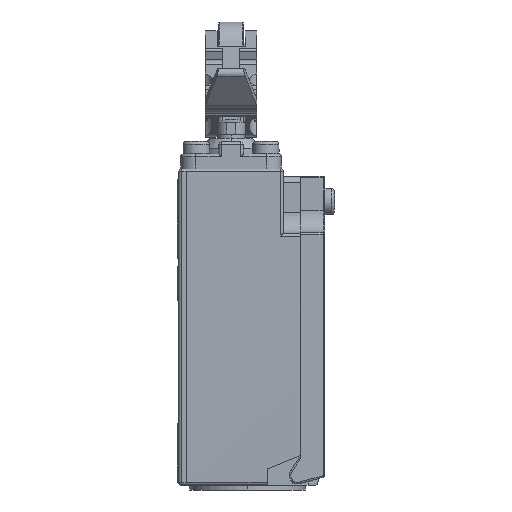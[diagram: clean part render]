
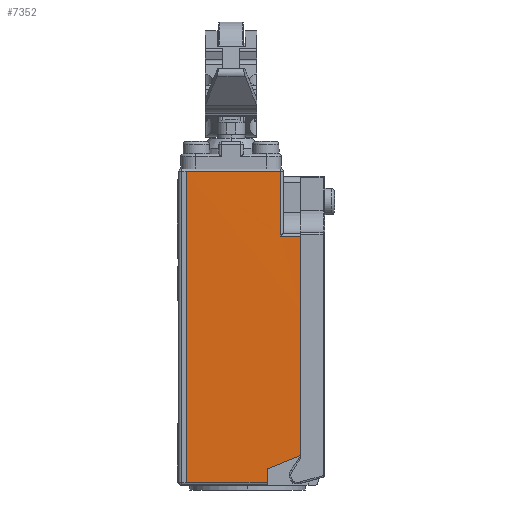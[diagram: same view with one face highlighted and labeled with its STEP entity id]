
A CAD part, front view. The second image highlights one B-rep face of the part: STEP entity #7352.
In plain terms, the highlighted free-form (B-spline) face has degree [3, 3] with [6, 4] control points.
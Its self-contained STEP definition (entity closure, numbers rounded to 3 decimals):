
#681=B_SPLINE_SURFACE_WITH_KNOTS('',3,3,((#47735,#47736,#47737,#47738),
(#47739,#47740,#47741,#47742),(#47743,#47744,#47745,#47746),(#47747,#47748,
#47749,#47750),(#47751,#47752,#47753,#47754),(#47755,#47756,#47757,#47758)),
 .UNSPECIFIED.,.F.,.F.,.F.,(4,1,1,4),(4,4),(0.,0.019,0.981,
1.),(0.,1.),.UNSPECIFIED.);
#5288=FACE_OUTER_BOUND('',#9724,.T.);
#6643=B_SPLINE_CURVE_WITH_KNOTS('',3,(#47699,#47700,#47701,#47702),
 .UNSPECIFIED.,.F.,.F.,(4,4),(0.,1.),.UNSPECIFIED.);
#6644=B_SPLINE_CURVE_WITH_KNOTS('',3,(#47704,#47705,#47706,#47707),
 .UNSPECIFIED.,.F.,.F.,(4,4),(0.,1.),.UNSPECIFIED.);
#6645=B_SPLINE_CURVE_WITH_KNOTS('',3,(#47709,#47710,#47711,#47712,#47713,
#47714,#47715,#47716,#47717,#47718),.UNSPECIFIED.,.F.,.F.,(4,2,2,2,4),(0.,
0.25,0.375,0.5,1.),.UNSPECIFIED.);
#6646=B_SPLINE_CURVE_WITH_KNOTS('',3,(#47719,#47720,#47721,#47722),
 .UNSPECIFIED.,.F.,.F.,(4,4),(0.,1.),.UNSPECIFIED.);
#6647=B_SPLINE_CURVE_WITH_KNOTS('',3,(#47726,#47727,#47728,#47729),
 .UNSPECIFIED.,.F.,.F.,(4,4),(0.,1.),.UNSPECIFIED.);
#6648=B_SPLINE_CURVE_WITH_KNOTS('',3,(#47731,#47732,#47733,#47734),
 .UNSPECIFIED.,.F.,.F.,(4,4),(0.,1.),.UNSPECIFIED.);
#7352=ADVANCED_FACE('',(#5288),#681,.F.);
#9724=EDGE_LOOP('',(#13995,#13996,#13997,#13998,#13999,#14000,#14001,#14002,
#14003));
#11206=CIRCLE('',#30819,1671.224);
#13995=ORIENTED_EDGE('',*,*,#23180,.F.);
#13996=ORIENTED_EDGE('',*,*,#23181,.T.);
#13997=ORIENTED_EDGE('',*,*,#23182,.F.);
#13998=ORIENTED_EDGE('',*,*,#23183,.T.);
#13999=ORIENTED_EDGE('',*,*,#23179,.T.);
#14000=ORIENTED_EDGE('',*,*,#23184,.T.);
#14001=ORIENTED_EDGE('',*,*,#23185,.T.);
#14002=ORIENTED_EDGE('',*,*,#23186,.F.);
#14003=ORIENTED_EDGE('',*,*,#23187,.F.);
#20316=VERTEX_POINT('',#47689);
#20318=VERTEX_POINT('',#47693);
#20319=VERTEX_POINT('',#47697);
#20320=VERTEX_POINT('',#47698);
#20321=VERTEX_POINT('',#47703);
#20322=VERTEX_POINT('',#47708);
#20323=VERTEX_POINT('',#47723);
#20324=VERTEX_POINT('',#47725);
#20325=VERTEX_POINT('',#47730);
#23179=EDGE_CURVE('',#20316,#20318,#26373,.T.);
#23180=EDGE_CURVE('',#20319,#20320,#11206,.T.);
#23181=EDGE_CURVE('',#20319,#20321,#6643,.T.);
#23182=EDGE_CURVE('',#20322,#20321,#6644,.T.);
#23183=EDGE_CURVE('',#20322,#20316,#6645,.T.);
#23184=EDGE_CURVE('',#20318,#20323,#6646,.T.);
#23185=EDGE_CURVE('',#20323,#20324,#26374,.T.);
#23186=EDGE_CURVE('',#20325,#20324,#6647,.T.);
#23187=EDGE_CURVE('',#20320,#20325,#6648,.T.);
#26373=LINE('',#47694,#28493);
#26374=LINE('',#47724,#28494);
#28493=VECTOR('',#34142,1.);
#28494=VECTOR('',#34147,1.);
#30819=AXIS2_PLACEMENT_3D('',#47696,#34145,#34146);
#34142=DIRECTION('',(-1.,0.,0.));
#34145=DIRECTION('',(1.,0.,0.));
#34146=DIRECTION('',(0.,-1.,0.011));
#34147=DIRECTION('',(1.,0.,0.));
#47689=CARTESIAN_POINT('',(-105.895,434.864,-71.736));
#47693=CARTESIAN_POINT('',(-125.089,434.864,-71.736));
#47694=CARTESIAN_POINT('',(-105.895,434.864,-71.736));
#47696=CARTESIAN_POINT('',(-101.905,2105.789,-103.305));
#47697=CARTESIAN_POINT('',(-101.905,434.666,-84.975));
#47698=CARTESIAN_POINT('',(-101.905,434.769,-129.379));
#47699=CARTESIAN_POINT('',(-101.905,434.666,-84.975));
#47700=CARTESIAN_POINT('',(-103.238,434.677,-84.929));
#47701=CARTESIAN_POINT('',(-104.572,434.688,-84.882));
#47702=CARTESIAN_POINT('',(-105.905,434.699,-84.836));
#47703=CARTESIAN_POINT('',(-105.905,434.702,-84.836));
#47704=CARTESIAN_POINT('',(-105.905,434.704,-84.324));
#47705=CARTESIAN_POINT('',(-105.905,434.704,-84.494));
#47706=CARTESIAN_POINT('',(-105.905,434.704,-84.665));
#47707=CARTESIAN_POINT('',(-105.905,434.704,-84.836));
#47708=CARTESIAN_POINT('',(-105.905,434.704,-84.324));
#47709=CARTESIAN_POINT('',(-105.905,434.704,-84.324));
#47710=CARTESIAN_POINT('',(-105.904,434.711,-83.586));
#47711=CARTESIAN_POINT('',(-105.904,434.72,-82.693));
#47712=CARTESIAN_POINT('',(-105.903,434.737,-81.12));
#47713=CARTESIAN_POINT('',(-105.902,434.743,-80.556));
#47714=CARTESIAN_POINT('',(-105.901,434.757,-79.351));
#47715=CARTESIAN_POINT('',(-105.901,434.765,-78.753));
#47716=CARTESIAN_POINT('',(-105.898,434.811,-75.135));
#47717=CARTESIAN_POINT('',(-105.896,434.843,-73.038));
#47718=CARTESIAN_POINT('',(-105.895,434.864,-71.736));
#47719=CARTESIAN_POINT('',(-125.089,434.864,-71.736));
#47720=CARTESIAN_POINT('',(-125.089,434.84,-92.782));
#47721=CARTESIAN_POINT('',(-125.089,434.84,-113.828));
#47722=CARTESIAN_POINT('',(-125.089,434.864,-134.873));
#47723=CARTESIAN_POINT('',(-125.089,434.864,-134.873));
#47724=CARTESIAN_POINT('',(-125.089,434.864,-134.873));
#47725=CARTESIAN_POINT('',(-108.652,434.864,-134.873));
#47726=CARTESIAN_POINT('',(-108.652,434.827,-132.078));
#47727=CARTESIAN_POINT('',(-108.652,434.839,-133.01));
#47728=CARTESIAN_POINT('',(-108.652,434.851,-133.942));
#47729=CARTESIAN_POINT('',(-108.652,434.864,-134.873));
#47730=CARTESIAN_POINT('',(-108.652,434.827,-132.078));
#47731=CARTESIAN_POINT('',(-101.905,434.769,-129.379));
#47732=CARTESIAN_POINT('',(-104.154,434.791,-130.279));
#47733=CARTESIAN_POINT('',(-106.403,434.811,-131.178));
#47734=CARTESIAN_POINT('',(-108.652,434.827,-132.078));
#47735=CARTESIAN_POINT('',(-101.441,434.888,-70.474));
#47736=CARTESIAN_POINT('',(-109.478,434.88,-70.474));
#47737=CARTESIAN_POINT('',(-117.516,434.873,-70.474));
#47738=CARTESIAN_POINT('',(-125.553,434.865,-70.474));
#47739=CARTESIAN_POINT('',(-101.441,434.88,-70.895));
#47740=CARTESIAN_POINT('',(-109.478,434.875,-70.895));
#47741=CARTESIAN_POINT('',(-117.516,434.869,-70.894));
#47742=CARTESIAN_POINT('',(-125.553,434.864,-70.894));
#47743=CARTESIAN_POINT('',(-101.441,434.459,-92.358));
#47744=CARTESIAN_POINT('',(-109.478,434.588,-92.359));
#47745=CARTESIAN_POINT('',(-117.516,434.718,-92.36));
#47746=CARTESIAN_POINT('',(-125.553,434.847,-92.361));
#47747=CARTESIAN_POINT('',(-101.441,434.459,-114.251));
#47748=CARTESIAN_POINT('',(-109.478,434.588,-114.25));
#47749=CARTESIAN_POINT('',(-117.516,434.718,-114.25));
#47750=CARTESIAN_POINT('',(-125.553,434.847,-114.249));
#47751=CARTESIAN_POINT('',(-101.441,434.88,-135.715));
#47752=CARTESIAN_POINT('',(-109.478,434.875,-135.715));
#47753=CARTESIAN_POINT('',(-117.516,434.869,-135.715));
#47754=CARTESIAN_POINT('',(-125.553,434.864,-135.715));
#47755=CARTESIAN_POINT('',(-101.441,434.888,-136.136));
#47756=CARTESIAN_POINT('',(-109.478,434.88,-136.136));
#47757=CARTESIAN_POINT('',(-117.516,434.873,-136.136));
#47758=CARTESIAN_POINT('',(-125.553,434.865,-136.136));
